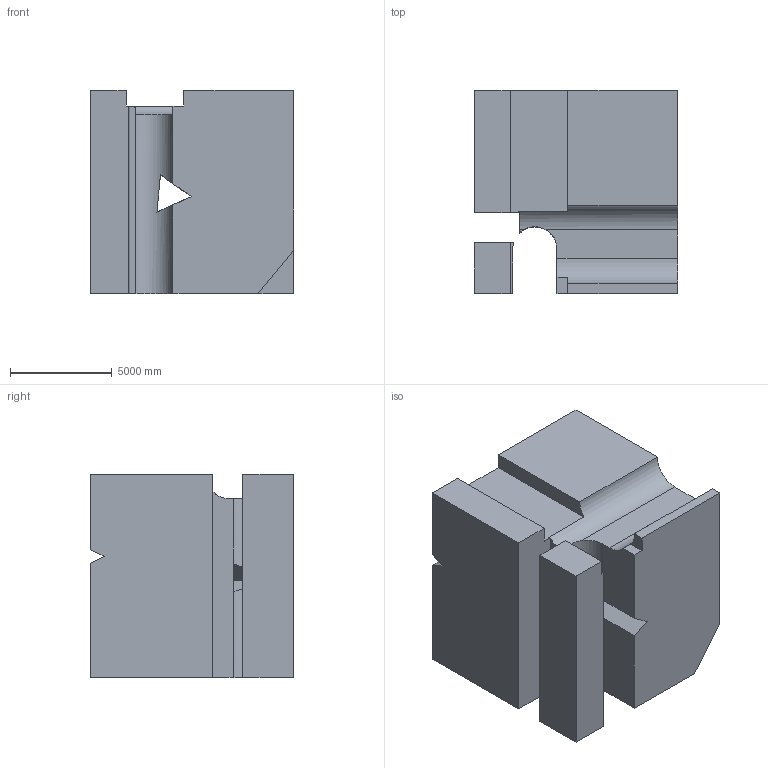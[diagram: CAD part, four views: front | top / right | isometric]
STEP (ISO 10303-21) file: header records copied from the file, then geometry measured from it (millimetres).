
FILE_DESCRIPTION (( 'STEP AP203' ), '1' );
FILE_NAME ('160.STEP', '2022-09-06T15:16:50', ( 'user' ), ( '' ), 'SwSTEP 2.0', 'SolidWorks 2021', '' );
FILE_SCHEMA (( 'CONFIG_CONTROL_DESIGN' ));
Length unit declared in the file: centimetre
Products named in the file (1): 160
Bounding box: 10000 x 10000 x 10000 mm (x, y, z)
Volume: 839071914644.5 mm3; surface area: 712768556.1 mm2
Topology: 2 solids, 2 shells, 40 faces, 114 edges, 76 vertices
Faces by surface type: plane 36, cylinder 4
Entity records: 1413 total; most frequent: CARTESIAN_POINT 286, ORIENTED_EDGE 228, DIRECTION 204, EDGE_CURVE 114, VECTOR 98, LINE 98, VERTEX_POINT 76, AXIS2_PLACEMENT_3D 53
